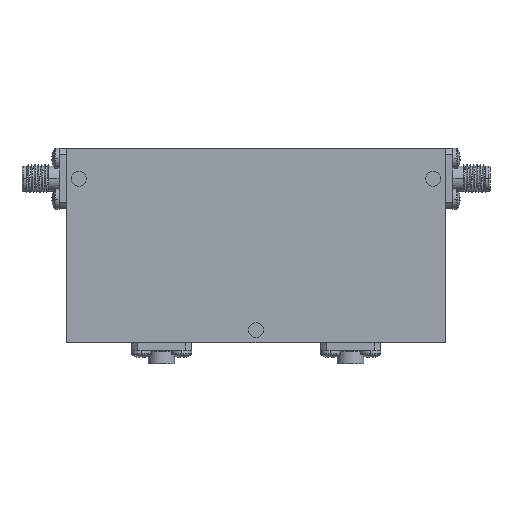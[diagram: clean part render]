
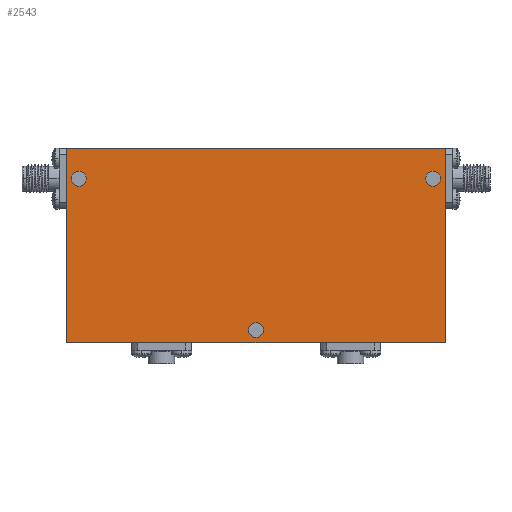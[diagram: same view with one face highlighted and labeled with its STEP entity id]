
A CAD part, top view. The second image highlights one B-rep face of the part: STEP entity #2543.
In plain terms, the highlighted planar face has unit normal (0, 0, 1).
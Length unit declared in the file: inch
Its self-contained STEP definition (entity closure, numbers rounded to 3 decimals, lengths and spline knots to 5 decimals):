
#14 = CARTESIAN_POINT ( 'NONE',  ( -1.4175, 0.56, 0.35 ) ) ;
#23 = ORIENTED_EDGE ( 'NONE', *, *, #833, .T. ) ;
#162 = EDGE_CURVE ( 'NONE', #1141, #3166, #3145, .T. ) ;
#205 = VECTOR ( 'NONE', #3830, 39.37008 ) ;
#254 = CARTESIAN_POINT ( 'NONE',  ( 0., -0.705, 0.35 ) ) ;
#402 = CARTESIAN_POINT ( 'NONE',  ( 1.48, 0.56, 0.35 ) ) ;
#477 = EDGE_LOOP ( 'NONE', ( #1153, #487 ) ) ;
#487 = ORIENTED_EDGE ( 'NONE', *, *, #2285, .F. ) ;
#501 = DIRECTION ( 'NONE',  ( 0., 0., 1. ) ) ;
#508 = LINE ( 'NONE', #1260, #4413 ) ;
#758 = CARTESIAN_POINT ( 'NONE',  ( -1.58, 0.81, 0.35 ) ) ;
#773 = AXIS2_PLACEMENT_3D ( 'NONE', #254, #2908, #4388 ) ;
#833 = EDGE_CURVE ( 'NONE', #3166, #3038, #1047, .T. ) ;
#849 = CARTESIAN_POINT ( 'NONE',  ( 0., -0.705, 0.35 ) ) ;
#853 = DIRECTION ( 'NONE',  ( 1., 0., 0. ) ) ;
#880 = CARTESIAN_POINT ( 'NONE',  ( 0., 0., 0.35 ) ) ;
#903 = EDGE_LOOP ( 'NONE', ( #2515, #4139 ) ) ;
#1047 = LINE ( 'NONE', #1559, #205 ) ;
#1141 = VERTEX_POINT ( 'NONE', #4776 ) ;
#1153 = ORIENTED_EDGE ( 'NONE', *, *, #3957, .F. ) ;
#1181 = DIRECTION ( 'NONE',  ( 0., 0., 1. ) ) ;
#1260 = CARTESIAN_POINT ( 'NONE',  ( -1.58, -0.81, 0.35 ) ) ;
#1326 = ORIENTED_EDGE ( 'NONE', *, *, #2204, .T. ) ;
#1371 = CIRCLE ( 'NONE', #1845, 0.0625 ) ;
#1553 = VERTEX_POINT ( 'NONE', #2194 ) ;
#1559 = CARTESIAN_POINT ( 'NONE',  ( -1.58, 0.81, 0.35 ) ) ;
#1761 = DIRECTION ( 'NONE',  ( 0., 0., 1. ) ) ;
#1762 = ORIENTED_EDGE ( 'NONE', *, *, #162, .T. ) ;
#1765 = VERTEX_POINT ( 'NONE', #14 ) ;
#1787 = CARTESIAN_POINT ( 'NONE',  ( 1.4175, 0.56, 0.35 ) ) ;
#1819 = DIRECTION ( 'NONE',  ( 0., 1., 0. ) ) ;
#1845 = AXIS2_PLACEMENT_3D ( 'NONE', #2928, #3311, #4102 ) ;
#1847 = EDGE_CURVE ( 'NONE', #1765, #3623, #1876, .T. ) ;
#1876 = CIRCLE ( 'NONE', #2847, 0.0625 ) ;
#1914 = DIRECTION ( 'NONE',  ( 1., 0., 0. ) ) ;
#1962 = DIRECTION ( 'NONE',  ( 1., 0., 0. ) ) ;
#1992 = EDGE_CURVE ( 'NONE', #3623, #1765, #4761, .T. ) ;
#2125 = AXIS2_PLACEMENT_3D ( 'NONE', #880, #3884, #853 ) ;
#2158 = VERTEX_POINT ( 'NONE', #4857 ) ;
#2194 = CARTESIAN_POINT ( 'NONE',  ( 1.58, -0.81, 0.35 ) ) ;
#2204 = EDGE_CURVE ( 'NONE', #1553, #1141, #3862, .T. ) ;
#2262 = CIRCLE ( 'NONE', #3380, 0.0625 ) ;
#2285 = EDGE_CURVE ( 'NONE', #2696, #2158, #4339, .T. ) ;
#2305 = CARTESIAN_POINT ( 'NONE',  ( 0.0625, -0.705, 0.35 ) ) ;
#2326 = CARTESIAN_POINT ( 'NONE',  ( -1.48, 0.56, 0.35 ) ) ;
#2343 = FACE_OUTER_BOUND ( 'NONE', #2688, .T. ) ;
#2515 = ORIENTED_EDGE ( 'NONE', *, *, #1847, .F. ) ;
#2526 = DIRECTION ( 'NONE',  ( 1., 0., 0. ) ) ;
#2543 = ADVANCED_FACE ( 'NONE', ( #4332, #3625, #3336, #2343 ), #3858, .T. ) ;
#2631 = ORIENTED_EDGE ( 'NONE', *, *, #2645, .F. ) ;
#2645 = EDGE_CURVE ( 'NONE', #3448, #4274, #4696, .T. ) ;
#2688 = EDGE_LOOP ( 'NONE', ( #1326, #1762, #23, #3279 ) ) ;
#2696 = VERTEX_POINT ( 'NONE', #1787 ) ;
#2847 = AXIS2_PLACEMENT_3D ( 'NONE', #2326, #1181, #1914 ) ;
#2908 = DIRECTION ( 'NONE',  ( 0., 0., 1. ) ) ;
#2928 = CARTESIAN_POINT ( 'NONE',  ( 1.48, 0.56, 0.35 ) ) ;
#3038 = VERTEX_POINT ( 'NONE', #4153 ) ;
#3145 = LINE ( 'NONE', #758, #3777 ) ;
#3163 = CARTESIAN_POINT ( 'NONE',  ( -1.5425, 0.56, 0.35 ) ) ;
#3166 = VERTEX_POINT ( 'NONE', #4226 ) ;
#3192 = AXIS2_PLACEMENT_3D ( 'NONE', #4778, #1761, #2526 ) ;
#3225 = VECTOR ( 'NONE', #1819, 39.37008 ) ;
#3267 = EDGE_CURVE ( 'NONE', #4274, #3448, #2262, .T. ) ;
#3279 = ORIENTED_EDGE ( 'NONE', *, *, #4441, .T. ) ;
#3311 = DIRECTION ( 'NONE',  ( 0., 0., 1. ) ) ;
#3336 = FACE_BOUND ( 'NONE', #903, .T. ) ;
#3380 = AXIS2_PLACEMENT_3D ( 'NONE', #849, #501, #3494 ) ;
#3448 = VERTEX_POINT ( 'NONE', #4618 ) ;
#3494 = DIRECTION ( 'NONE',  ( 1., 0., 0. ) ) ;
#3623 = VERTEX_POINT ( 'NONE', #3163 ) ;
#3625 = FACE_BOUND ( 'NONE', #4662, .T. ) ;
#3777 = VECTOR ( 'NONE', #4328, 39.37008 ) ;
#3790 = DIRECTION ( 'NONE',  ( 1., 0., 0. ) ) ;
#3830 = DIRECTION ( 'NONE',  ( 0., -1., 0. ) ) ;
#3858 = PLANE ( 'NONE',  #2125 ) ;
#3862 = LINE ( 'NONE', #4469, #3225 ) ;
#3884 = DIRECTION ( 'NONE',  ( 0., 0., 1. ) ) ;
#3957 = EDGE_CURVE ( 'NONE', #2158, #2696, #1371, .T. ) ;
#4021 = ORIENTED_EDGE ( 'NONE', *, *, #3267, .F. ) ;
#4102 = DIRECTION ( 'NONE',  ( 1., 0., 0. ) ) ;
#4139 = ORIENTED_EDGE ( 'NONE', *, *, #1992, .F. ) ;
#4153 = CARTESIAN_POINT ( 'NONE',  ( -1.58, -0.81, 0.35 ) ) ;
#4212 = DIRECTION ( 'NONE',  ( 0., 0., 1. ) ) ;
#4226 = CARTESIAN_POINT ( 'NONE',  ( -1.58, 0.81, 0.35 ) ) ;
#4274 = VERTEX_POINT ( 'NONE', #2305 ) ;
#4328 = DIRECTION ( 'NONE',  ( -1., 0., 0. ) ) ;
#4332 = FACE_BOUND ( 'NONE', #477, .T. ) ;
#4339 = CIRCLE ( 'NONE', #4715, 0.0625 ) ;
#4388 = DIRECTION ( 'NONE',  ( 1., 0., 0. ) ) ;
#4413 = VECTOR ( 'NONE', #1962, 39.37008 ) ;
#4441 = EDGE_CURVE ( 'NONE', #3038, #1553, #508, .T. ) ;
#4469 = CARTESIAN_POINT ( 'NONE',  ( 1.58, 0.81, 0.35 ) ) ;
#4618 = CARTESIAN_POINT ( 'NONE',  ( -0.0625, -0.705, 0.35 ) ) ;
#4662 = EDGE_LOOP ( 'NONE', ( #4021, #2631 ) ) ;
#4696 = CIRCLE ( 'NONE', #773, 0.0625 ) ;
#4715 = AXIS2_PLACEMENT_3D ( 'NONE', #402, #4212, #3790 ) ;
#4761 = CIRCLE ( 'NONE', #3192, 0.0625 ) ;
#4776 = CARTESIAN_POINT ( 'NONE',  ( 1.58, 0.81, 0.35 ) ) ;
#4778 = CARTESIAN_POINT ( 'NONE',  ( -1.48, 0.56, 0.35 ) ) ;
#4857 = CARTESIAN_POINT ( 'NONE',  ( 1.5425, 0.56, 0.35 ) ) ;
